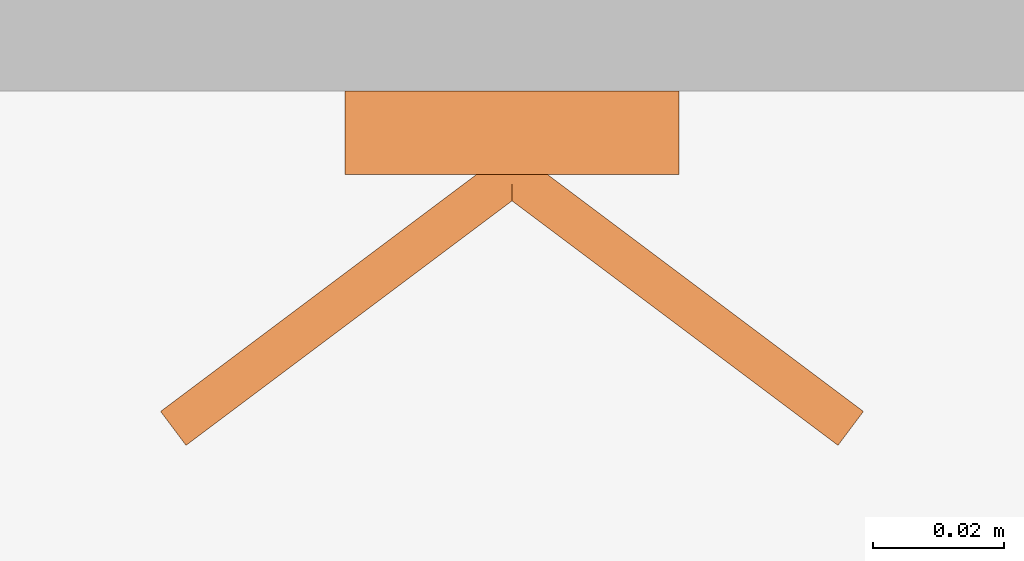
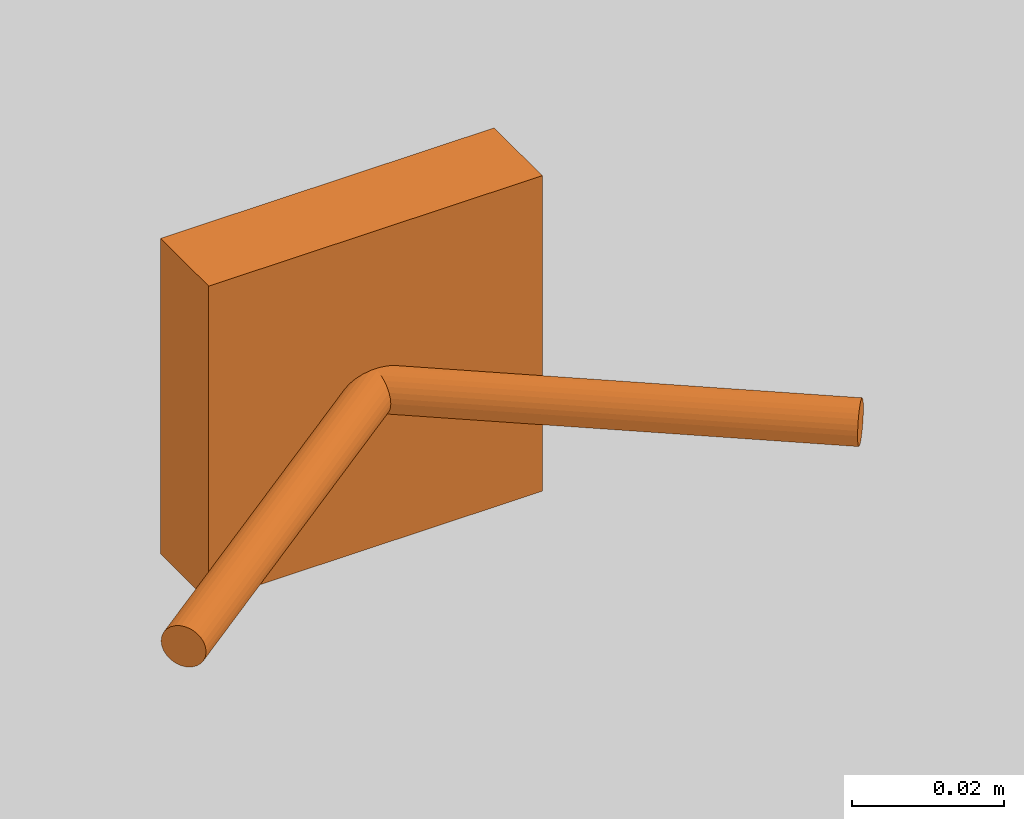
# One storey, part 91 of 142: 1 proxy.
"""IFC2X3 building model written with IfcOpenShell, lengths in feet."""

from ifc_helpers import new_model, entity, si_unit, converted_unit, derived_unit, direction, frame, frame_2d, origin, origin_2d_with_axis, place, context, subcontext, project, spatial, rectangle, circle, extrude, source, transform, mapped, type_object, type_shapes, element, save


model = new_model("IFC2X3")

# Units and contexts
model_context = context("Model", 3, precision=0.0001, world=origin(), true_north=direction((6.12303176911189e-17, 1.0)))
body_context = subcontext(model_context, "Body", "Model", "MODEL_VIEW")
ifc_project = project(units=[converted_unit("LENGTHUNIT", "FOOT", entity("IfcRatioMeasure", 0.3048), si_unit("LENGTHUNIT", "METRE"), dimensions=[1, 0, 0, 0, 0, 0, 0]), converted_unit("AREAUNIT", "SQUARE FOOT", entity("IfcRatioMeasure", 0.09290304), si_unit("AREAUNIT", "SQUARE_METRE"), dimensions=[2, 0, 0, 0, 0, 0, 0]), converted_unit("VOLUMEUNIT", "CUBIC FOOT", entity("IfcRatioMeasure", 0.028316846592), si_unit("VOLUMEUNIT", "CUBIC_METRE"), dimensions=[3, 0, 0, 0, 0, 0, 0]), converted_unit("PLANEANGLEUNIT", "DEGREE", entity("IfcRatioMeasure", 0.0174532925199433), si_unit("PLANEANGLEUNIT", "RADIAN"), dimensions=[0, 0, 0, 0, 0, 0, 0]), si_unit("MASSUNIT", "GRAM", prefix="KILO"), derived_unit("MASSDENSITYUNIT", [(si_unit("MASSUNIT", "GRAM", prefix="KILO"), 1), (si_unit("LENGTHUNIT", "METRE"), -3)]), si_unit("TIMEUNIT", "SECOND"), si_unit("FREQUENCYUNIT", "HERTZ"), si_unit("THERMODYNAMICTEMPERATUREUNIT", "DEGREE_CELSIUS"), derived_unit("THERMALTRANSMITTANCEUNIT", [(si_unit("MASSUNIT", "GRAM", prefix="KILO"), 1), (si_unit("THERMODYNAMICTEMPERATUREUNIT", "KELVIN"), -1), (si_unit("TIMEUNIT", "SECOND"), -3)]), derived_unit("VOLUMETRICFLOWRATEUNIT", [(si_unit("LENGTHUNIT", "METRE"), 3), (si_unit("TIMEUNIT", "SECOND"), -1)]), si_unit("ELECTRICCURRENTUNIT", "AMPERE"), si_unit("ELECTRICVOLTAGEUNIT", "VOLT"), si_unit("POWERUNIT", "WATT"), si_unit("FORCEUNIT", "NEWTON"), si_unit("ILLUMINANCEUNIT", "LUX"), si_unit("LUMINOUSFLUXUNIT", "LUMEN"), si_unit("LUMINOUSINTENSITYUNIT", "CANDELA"), derived_unit("USERDEFINED", [(si_unit("MASSUNIT", "GRAM", prefix="KILO"), -1), (si_unit("LENGTHUNIT", "METRE"), -2), (si_unit("TIMEUNIT", "SECOND"), 3), (si_unit("LUMINOUSFLUXUNIT", "LUMEN"), 1)]), derived_unit("LINEARVELOCITYUNIT", [(si_unit("LENGTHUNIT", "METRE"), 1), (si_unit("TIMEUNIT", "SECOND"), -1)]), si_unit("PRESSUREUNIT", "PASCAL"), derived_unit("USERDEFINED", [(si_unit("LENGTHUNIT", "METRE"), -2), (si_unit("MASSUNIT", "GRAM", prefix="KILO"), 1), (si_unit("TIMEUNIT", "SECOND"), -2)])], contexts=[model_context])

# Site, building, storey, space
site_placement = place(None, origin())
site = spatial("IfcSite", under=ifc_project, at=site_placement, Name="Default", CompositionType="ELEMENT")
building_placement = place(site_placement, origin())
building = spatial("IfcBuilding", under=site, at=building_placement, Name="OUTPATIENT / PACT CLINIC (Ch. 265)", CompositionType="ELEMENT")
storey_placement = place(building_placement, origin())
storey = spatial("IfcBuildingStorey", under=building, at=storey_placement, Name="LEVEL 1", CompositionType="ELEMENT", Elevation=0.0)
space_placement = place(storey_placement, origin())
space = spatial("IfcSpace", under=storey, at=space_placement, Name="EXPA01", CompositionType="ELEMENT", InteriorOrExteriorSpace="INTERNAL")

# Proxy
building_element_proxy_type = type_object("IfcBuildingElementProxyType", Name="A5145 - Hook, Garment, Double", PredefinedType="NOTDEFINED")
shared_shape = source(origin(), body_context, "Body", "SweptSolid", [
    extrude(circle(Radius=0.0105952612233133, at=frame_2d((-1.64551454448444e-31, -4.16333634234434e-17), x_axis=(1.0, 0.0))), frame((-0.169086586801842, -0.168481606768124, 0.0833333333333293), z_axis=(0.799999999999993, 0.60000000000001, 0.0), x_axis=(0.60000000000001, -0.799999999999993, 0.0)), (0.0, 0.0, 1.0), 0.211358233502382),
    extrude(circle(Radius=0.0105952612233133, at=frame_2d((5.2041704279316e-19, 2.77555756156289e-17), x_axis=(1.0, 0.0))), frame((0.0, -0.0416666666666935, 0.083333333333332), z_axis=(0.799999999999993, -0.60000000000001, 0.0), x_axis=(-0.60000000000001, -0.799999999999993, 0.0)), (0.0, 0.0, 1.0), 0.211358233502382),
    extrude(rectangle(XDim=0.0416666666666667, YDim=0.166666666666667, at=origin_2d_with_axis()), frame((0.0, -0.0208333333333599, 0.0), z_axis=(0.0, 0.0, 1.0), x_axis=(0.0, 1.0, 0.0)), (0.0, 0.0, 1.0), 0.166666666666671),
])
type_shapes(building_element_proxy_type, [shared_shape])
proxy_placement = place(space_placement, frame((392.827893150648, -921.441351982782, 4.0)))
element("IfcBuildingElementProxy", 1, at=proxy_placement, inside=space, type_object=building_element_proxy_type, Name="A5145 - Hook, Garment, Double:A5145 - Hook, Garment, Double", ObjectType="A5145 - Hook, Garment, Double", context=body_context, shape_type="MappedRepresentation", body=[
    mapped(shared_shape, transform((0.0, 0.0, 0.0), scale=1.0)),
])

save(model, "model.ifc")
